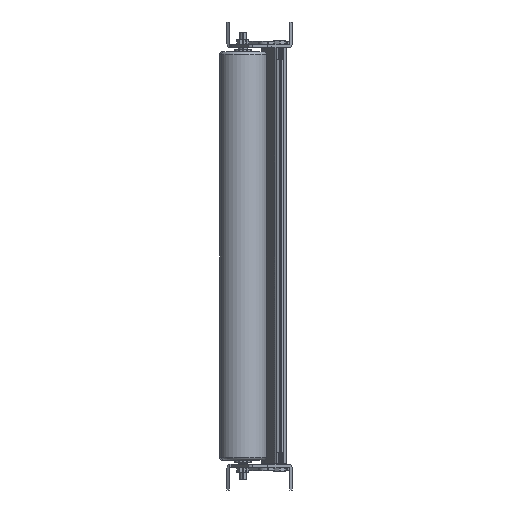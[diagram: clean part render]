
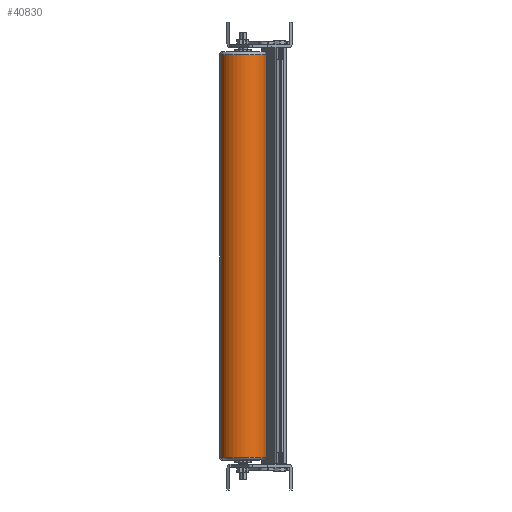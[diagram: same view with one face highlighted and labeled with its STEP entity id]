
A CAD part, left-side view. The second image highlights one B-rep face of the part: STEP entity #40830.
In plain terms, the highlighted cylindrical face has radius 22.5 mm (diameter 45 mm), a partial arc.
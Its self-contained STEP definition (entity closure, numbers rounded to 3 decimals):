
#66 = FACE_OUTER_BOUND ( 'NONE', #16058, .T. ) ;
#6076 = DIRECTION ( 'NONE',  ( 0.416, -0.909, 0. ) ) ;
#8999 = EDGE_CURVE ( 'NONE', #72801, #67643, #41937, .T. ) ;
#9505 = CARTESIAN_POINT ( 'NONE',  ( -1815.725, -172.768, -19. ) ) ;
#12470 = CARTESIAN_POINT ( 'NONE',  ( -1825.093, -152.311, 327.541 ) ) ;
#12499 = CARTESIAN_POINT ( 'NONE',  ( -1825.093, -152.311, -19. ) ) ;
#12656 = AXIS2_PLACEMENT_3D ( 'NONE', #12470, #23084, #6076 ) ;
#14146 = CARTESIAN_POINT ( 'NONE',  ( -1834.461, -131.854, -19. ) ) ;
#16058 = EDGE_LOOP ( 'NONE', ( #71472, #41515, #71987, #50813 ) ) ;
#22354 = AXIS2_PLACEMENT_3D ( 'NONE', #53125, #25547, #59181 ) ;
#23084 = DIRECTION ( 'NONE',  ( 0., 0., 1. ) ) ;
#25547 = DIRECTION ( 'NONE',  ( 0., 0., 1. ) ) ;
#28310 = CIRCLE ( 'NONE', #22354, 22.5 ) ;
#29831 = CARTESIAN_POINT ( 'NONE',  ( -1815.725, -172.768, 327.541 ) ) ;
#30230 = DIRECTION ( 'NONE',  ( 0., 0., 1. ) ) ;
#31334 = CARTESIAN_POINT ( 'NONE',  ( -1834.461, -131.854, 327.541 ) ) ;
#36487 = CARTESIAN_POINT ( 'NONE',  ( -1834.461, -131.854, -406. ) ) ;
#40830 = ADVANCED_FACE ( 'NONE', ( #66 ), #64238, .T. ) ;
#41515 = ORIENTED_EDGE ( 'NONE', *, *, #64678, .T. ) ;
#41937 = LINE ( 'NONE', #31334, #66597 ) ;
#42587 = CIRCLE ( 'NONE', #54687, 22.5 ) ;
#48331 = DIRECTION ( 'NONE',  ( 0., 0., 1. ) ) ;
#50813 = ORIENTED_EDGE ( 'NONE', *, *, #63072, .T. ) ;
#53125 = CARTESIAN_POINT ( 'NONE',  ( -1825.093, -152.311, -406. ) ) ;
#54015 = DIRECTION ( 'NONE',  ( -0.416, 0.909, 0. ) ) ;
#54128 = VERTEX_POINT ( 'NONE', #73487 ) ;
#54450 = VERTEX_POINT ( 'NONE', #9505 ) ;
#54687 = AXIS2_PLACEMENT_3D ( 'NONE', #12499, #65021, #54015 ) ;
#59181 = DIRECTION ( 'NONE',  ( 0.416, -0.909, 0. ) ) ;
#60091 = VECTOR ( 'NONE', #48331, 1000. ) ;
#63072 = EDGE_CURVE ( 'NONE', #54450, #67643, #42587, .T. ) ;
#64238 = CYLINDRICAL_SURFACE ( 'NONE', #12656, 22.5 ) ;
#64678 = EDGE_CURVE ( 'NONE', #72801, #54128, #28310, .T. ) ;
#65021 = DIRECTION ( 'NONE',  ( 0., 0., -1. ) ) ;
#66597 = VECTOR ( 'NONE', #30230, 1000. ) ;
#67643 = VERTEX_POINT ( 'NONE', #14146 ) ;
#69665 = EDGE_CURVE ( 'NONE', #54128, #54450, #70714, .T. ) ;
#70714 = LINE ( 'NONE', #29831, #60091 ) ;
#71472 = ORIENTED_EDGE ( 'NONE', *, *, #8999, .F. ) ;
#71987 = ORIENTED_EDGE ( 'NONE', *, *, #69665, .T. ) ;
#72801 = VERTEX_POINT ( 'NONE', #36487 ) ;
#73487 = CARTESIAN_POINT ( 'NONE',  ( -1815.725, -172.768, -406. ) ) ;
